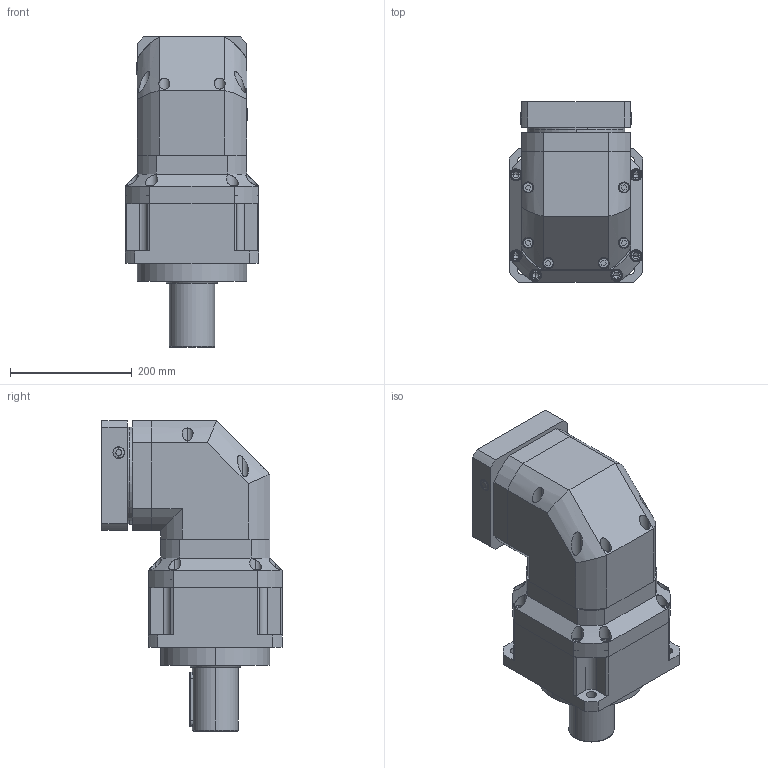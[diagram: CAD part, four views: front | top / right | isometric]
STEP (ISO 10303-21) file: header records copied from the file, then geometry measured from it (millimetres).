
FILE_DESCRIPTION (( 'STEP AP203' ), '1' );
FILE_NAME ('HABR220-L2-S2-P2-35-114.3-200-M122.STEP', '2024-05-20T07:15:00', ( 'MM' ), ( 'Microsoft' ), 'SwSTEP 2.0', 'SolidWorks 2018', '' );
FILE_SCHEMA (( 'CONFIG_CONTROL_DESIGN' ));
Length unit declared in the file: millimetre
Products named in the file (37): PHF180114_3-200-M10006; _220-184360001; _220-59970001; _PFZ180-156170001; _220-257570001; _220-121300001; _PFZ180-36610001; PHF180114_3-200-M10011; PHF180114_3-200-M10009; _PFZ180-204420001; _220-48120001; _220-33340001; _220_-__PH220_-__10001; PHF180114_3-200-M10010; PHF180114_3-200-M10001; _220_-__A_-_1__0001; PHFZ220-L2-35-114_0001_ASM; _PFZ180_-_-8_0001; _220-217530001; _PYZ200_-_-1_0001; _PYZ200-245680001; _220_-__PH220_050001; _PYZ200_35__-__M100002; _PFZ180-177550001; _220-104820001; _PFZ180-76480001; PHF180114_3-200-M10007; HABR220-L2-S2-P2-35-114.3-200-M122; PHF180114_3-200-M10008; PHF180114_3-200-M10003; PHF180114_3-200-M10002; _PFZ180-252620001; _220_-__PHF220-4900001; _220_-__PHF22-13630001; PHF180114_3-200-M10005; PHF180114_3-200-M10004; _PYZ200-11640001
Assembly tree (36 placements, depth 3):
  HABR220-L2-S2-P2-35-114.3-200-M122
    PHFZ220-L2-35-114_0001_ASM
      _220_-__PHF220-4900001
      _PYZ200-11640001
      PHF180114_3-200-M10001
      _220-33340001
      _PFZ180-36610001
      _220_-__PH220_-__10001
      _220-48120001
      _PFZ180_-_-8_0001
      _220-59970001
      PHF180114_3-200-M10002
      _PFZ180-76480001
      _220_-__A_-_1__0001
      PHF180114_3-200-M10003
      _PYZ200_-_-1_0001
      _220-104820001
      PHF180114_3-200-M10004
      _220-121300001
      PHF180114_3-200-M10005
      _220_-__PHF22-13630001
      _PFZ180-156170001
      PHF180114_3-200-M10006
      PHF180114_3-200-M10007
      _PFZ180-177550001
      _PYZ200_35__-__M100002
      _220-184360001
      _PFZ180-204420001
      _220_-__PH220_050001
      PHF180114_3-200-M10008
      _220-217530001
      PHF180114_3-200-M10009
      PHF180114_3-200-M10010
      _PYZ200-245680001
      _PFZ180-252620001
      PHF180114_3-200-M10011
      _220-257570001
Bounding box: 220 x 296.5 x 510 mm (x, y, z)
Volume: 15665956.2 mm3; surface area: 943225.9 mm2
Topology: 35 solids, 35 shells, 880 faces, 2107 edges, 1330 vertices
Faces by surface type: plane 396, cylinder 317, cone 84, bspline 79, torus 4
Entity records: 33518 total; most frequent: CARTESIAN_POINT 9192, DIRECTION 4367, ORIENTED_EDGE 4130, EDGE_CURVE 2065, AXIS2_PLACEMENT_3D 1651, VERTEX_POINT 1330, VECTOR 1065, LINE 1065
